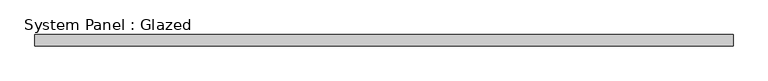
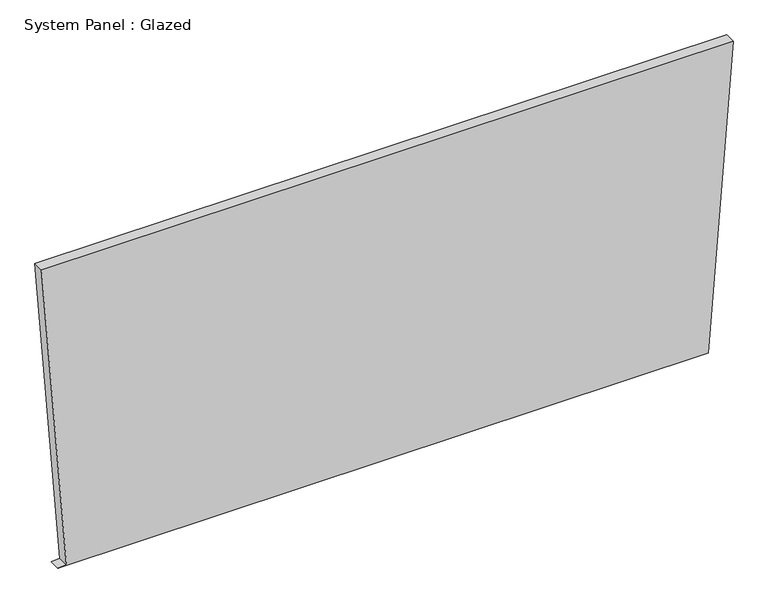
"""IFC4 building model written with IfcOpenShell, lengths in millimetres: plate geometry, System Panel : Glazed."""

from ifc_helpers import new_model, si_unit, frame, origin, place, context, project, spatial, polyline, outline, extrude, source, transform, mapped, element, save


def system_panel_glazed_28409379(model_context):
    return source(origin(), model_context, "Body", "SweptSolid", [
        extrude(outline(polyline([(0.0005539, -744.8828529), (0.0, 725.7755629), (726.2596143, 782.1439159), (726.2602035, -782.1439159), (1.4746788, -725.8899738), (0.0005539, -744.8828529)])), frame((0.0, 19.05, 0.0), z_axis=(0.0, 1.0, 0.0), x_axis=(0.0, 0.0, 1.0)), (0.0, 0.0, 1.0), 25.4),
    ])


if __name__ == "__main__":
    model = new_model("IFC4")
    model_context = context("Model", 3, world=origin())
    ifc_project = project(units=[si_unit("LENGTHUNIT", "METRE", prefix="MILLI")], contexts=[model_context])
    site = spatial("IfcSite", under=ifc_project)
    building = spatial("IfcBuilding", under=site)
    placement = place(None, origin())
    system_panel_glazed_shape = system_panel_glazed_28409379(model_context)
    element("IfcPlate", 1, ObjectType="System Panel : Glazed", at=placement, inside=building, context=model_context, shape_type="MappedRepresentation", body=[
        mapped(system_panel_glazed_shape, transform((0.0, 0.0, 0.0), x_axis=(1.0, 0.0, 0.0), y_axis=(0.0, 1.0, 0.0), z_axis=(0.0, 0.0, 1.0))),
    ])
    save(model, "model.ifc")
